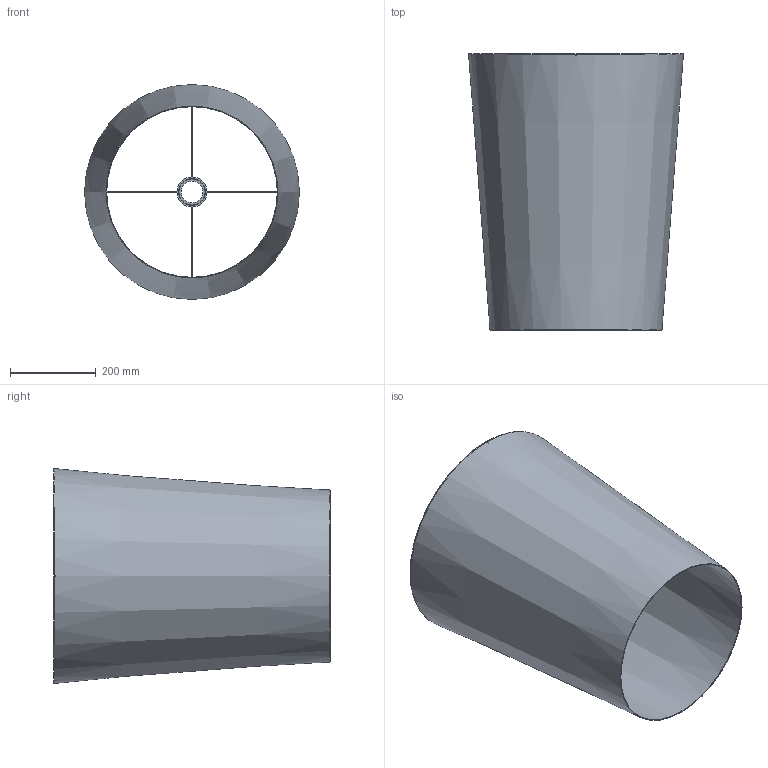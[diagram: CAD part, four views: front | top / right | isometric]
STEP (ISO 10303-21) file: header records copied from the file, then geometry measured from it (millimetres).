
FILE_DESCRIPTION(/* description */ (''),/* implementation_level */ '2;1');
FILE_NAME(/* name */ 'C:/Users/kubaw/OneDrive/Pulpit/Nowy folder/8912_WINSTON v6/8912_WINSTON v6.step',/* time_stamp */ '2021-03-13T09:56:43+01:00',/* author */ (''),/* organization */ (''),/* preprocessor_version */ 'ST-DEVELOPER v18.1',/* originating_system */ 'Autodesk Translation Framework v9.10.0.1330',/* authorisation */ '');
FILE_SCHEMA (('AUTOMOTIVE_DESIGN { 1 0 10303 214 3 1 1 }'));
Length unit declared in the file: millimetre
Products named in the file (1): 8912_WINSTON
Bounding box: 500 x 643 x 500 mm (x, y, z)
Volume: 920864.4 mm3; surface area: 1842066.9 mm2
Topology: 12 solids, 12 shells, 47 faces, 79 edges, 55 vertices
Faces by surface type: cylinder 21, plane 19, torus 5, cone 2
Full cylindrical faces by diameter (mm): 2 x12, 50 x1, 60.5 x1, 62 x1, 70 x1, 397 x1
Entity records: 1303 total; most frequent: CARTESIAN_POINT 326, DIRECTION 211, ORIENTED_EDGE 158, AXIS2_PLACEMENT_3D 96, EDGE_CURVE 79, VERTEX_POINT 55, EDGE_LOOP 54, CIRCLE 48
